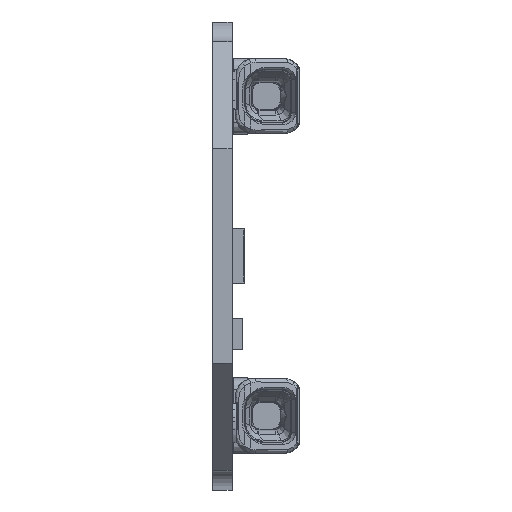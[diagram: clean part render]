
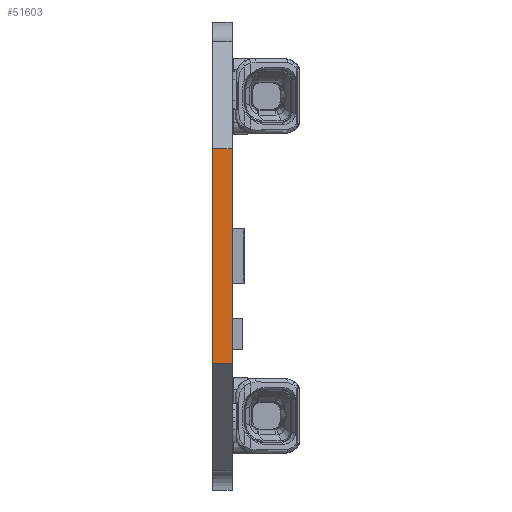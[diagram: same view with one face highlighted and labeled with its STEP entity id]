
A CAD part, left-side view. The second image highlights one B-rep face of the part: STEP entity #51603.
In plain terms, the highlighted planar face has unit normal (-1, 0, 0).
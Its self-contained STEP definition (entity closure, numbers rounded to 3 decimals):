
#3107=ORIENTED_EDGE('',*,*,#13360,.F.);
#3108=ORIENTED_EDGE('',*,*,#13758,.F.);
#3109=ORIENTED_EDGE('',*,*,#13694,.T.);
#3110=ORIENTED_EDGE('',*,*,#13757,.T.);
#13360=EDGE_CURVE('',#18866,#18867,#22410,.T.);
#13694=EDGE_CURVE('',#19082,#19140,#22552,.T.);
#13757=EDGE_CURVE('',#19140,#18867,#22611,.T.);
#13758=EDGE_CURVE('',#19082,#18866,#22612,.T.);
#18866=VERTEX_POINT('',#66038);
#18867=VERTEX_POINT('',#66040);
#19082=VERTEX_POINT('',#67069);
#19140=VERTEX_POINT('',#67185);
#22410=LINE('',#66039,#26512);
#22552=LINE('',#67186,#26654);
#22611=LINE('',#67315,#26713);
#22612=LINE('',#67317,#26714);
#26512=VECTOR('',#56501,1000.);
#26654=VECTOR('',#56889,1000.);
#26713=VECTOR('',#57080,1000.);
#26714=VECTOR('',#57083,1000.);
#30540=EDGE_LOOP('',(#3107,#3108,#3109,#3110));
#32874=FACE_BOUND('',#30540,.T.);
#35073=PLANE('',#53809);
#51603=ADVANCED_FACE('',(#32874),#35073,.T.);
#53809=AXIS2_PLACEMENT_3D('',#67316,#57081,#57082);
#56501=DIRECTION('',(0.,0.,-1.));
#56889=DIRECTION('',(0.,0.,-1.));
#57080=DIRECTION('',(0.,-1.,0.));
#57081=DIRECTION('',(-1.,0.,0.));
#57082=DIRECTION('',(0.,0.,1.));
#57083=DIRECTION('',(0.,-1.,0.));
#66038=CARTESIAN_POINT('',(-279.8,0.,5.5));
#66039=CARTESIAN_POINT('',(-279.8,0.,5.5));
#66040=CARTESIAN_POINT('',(-279.8,0.,-5.5));
#67069=CARTESIAN_POINT('',(-279.8,1.,5.5));
#67185=CARTESIAN_POINT('',(-279.8,1.,-5.5));
#67186=CARTESIAN_POINT('',(-279.8,1.,5.5));
#67315=CARTESIAN_POINT('',(-279.8,1.,-5.5));
#67316=CARTESIAN_POINT('',(-279.8,1.,5.5));
#67317=CARTESIAN_POINT('',(-279.8,1.,5.5));
